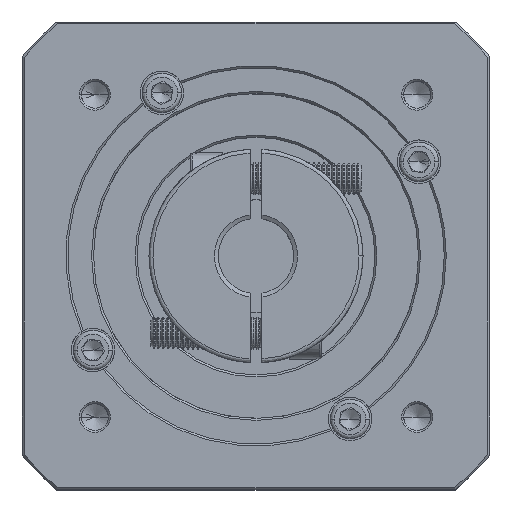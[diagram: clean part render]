
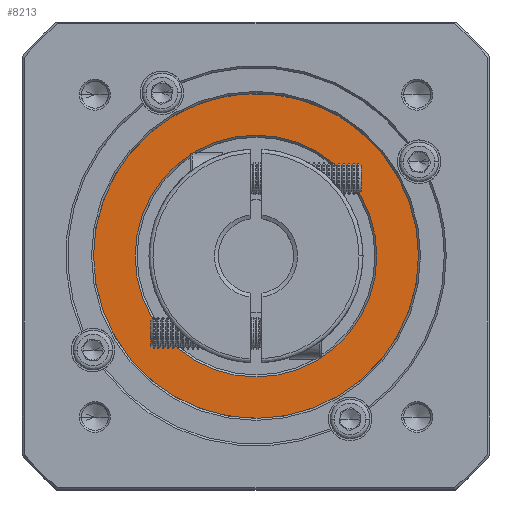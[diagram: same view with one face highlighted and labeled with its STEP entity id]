
A CAD part, top view. The second image highlights one B-rep face of the part: STEP entity #8213.
In plain terms, the highlighted planar face has unit normal (0, 0, 1).
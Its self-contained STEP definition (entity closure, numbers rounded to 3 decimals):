
#1322 = ORIENTED_EDGE ( 'NONE', *, *, #55532, .T. ) ;
#1853 = CARTESIAN_POINT ( 'NONE',  ( 101.736, 45.743, -26.852 ) ) ;
#2900 = ORIENTED_EDGE ( 'NONE', *, *, #115308, .T. ) ;
#5101 = FACE_OUTER_BOUND ( 'NONE', #51717, .T. ) ;
#7073 = CARTESIAN_POINT ( 'NONE',  ( 71.236, 45.743, -26.852 ) ) ;
#8213 = ADVANCED_FACE ( 'NONE', ( #5101, #79357 ), #133716, .T. ) ;
#10390 = CIRCLE ( 'NONE', #52571, 41. ) ;
#13324 = ORIENTED_EDGE ( 'NONE', *, *, #20689, .T. ) ;
#14761 = VERTEX_POINT ( 'NONE', #31502 ) ;
#19438 = EDGE_CURVE ( 'NONE', #67109, #93457, #32539, .T. ) ;
#20689 = EDGE_CURVE ( 'NONE', #102004, #67109, #10390, .T. ) ;
#21291 = CARTESIAN_POINT ( 'NONE',  ( 71.236, 45.743, -26.852 ) ) ;
#24596 = CARTESIAN_POINT ( 'NONE',  ( 32.377, 58.821, -26.852 ) ) ;
#26552 = CARTESIAN_POINT ( 'NONE',  ( 71.236, 45.743, -26.852 ) ) ;
#30578 = AXIS2_PLACEMENT_3D ( 'NONE', #59269, #60180, #70165 ) ;
#31502 = CARTESIAN_POINT ( 'NONE',  ( 30.236, 45.743, -26.852 ) ) ;
#32539 = CIRCLE ( 'NONE', #59554, 41. ) ;
#33550 = CIRCLE ( 'NONE', #138095, 41. ) ;
#37788 = DIRECTION ( 'NONE',  ( 0., 0., 1. ) ) ;
#38087 = ORIENTED_EDGE ( 'NONE', *, *, #19438, .T. ) ;
#38741 = CARTESIAN_POINT ( 'NONE',  ( 40.736, 45.743, -26.852 ) ) ;
#39907 = DIRECTION ( 'NONE',  ( 0., 0., 1. ) ) ;
#40820 = EDGE_CURVE ( 'NONE', #93457, #62718, #109251, .T. ) ;
#49202 = CARTESIAN_POINT ( 'NONE',  ( 110.094, 32.666, -26.852 ) ) ;
#51717 = EDGE_LOOP ( 'NONE', ( #13324, #38087, #59826, #2900, #59498, #1322 ) ) ;
#52571 = AXIS2_PLACEMENT_3D ( 'NONE', #111144, #133562, #121639 ) ;
#53882 = EDGE_LOOP ( 'NONE', ( #103107, #62902 ) ) ;
#53971 = CARTESIAN_POINT ( 'NONE',  ( 71.236, 45.743, -26.852 ) ) ;
#55532 = EDGE_CURVE ( 'NONE', #14761, #102004, #70762, .T. ) ;
#56183 = EDGE_CURVE ( 'NONE', #58747, #105773, #109773, .T. ) ;
#57156 = DIRECTION ( 'NONE',  ( 0., 0., -1. ) ) ;
#58376 = VERTEX_POINT ( 'NONE', #24596 ) ;
#58747 = VERTEX_POINT ( 'NONE', #1853 ) ;
#59269 = CARTESIAN_POINT ( 'NONE',  ( 71.236, 45.743, -26.852 ) ) ;
#59498 = ORIENTED_EDGE ( 'NONE', *, *, #131246, .T. ) ;
#59554 = AXIS2_PLACEMENT_3D ( 'NONE', #81270, #37788, #123606 ) ;
#59826 = ORIENTED_EDGE ( 'NONE', *, *, #40820, .T. ) ;
#60180 = DIRECTION ( 'NONE',  ( 0., 0., -1. ) ) ;
#62718 = VERTEX_POINT ( 'NONE', #65409 ) ;
#62902 = ORIENTED_EDGE ( 'NONE', *, *, #95098, .T. ) ;
#64154 = DIRECTION ( 'NONE',  ( 0., 0., 1. ) ) ;
#64887 = DIRECTION ( 'NONE',  ( 1., 0., 0. ) ) ;
#65236 = DIRECTION ( 'NONE',  ( 1., 0., 0. ) ) ;
#65409 = CARTESIAN_POINT ( 'NONE',  ( 39.471, 71.666, -26.852 ) ) ;
#66297 = DIRECTION ( 'NONE',  ( 0., 0., 1. ) ) ;
#67109 = VERTEX_POINT ( 'NONE', #49202 ) ;
#70165 = DIRECTION ( 'NONE',  ( 1., 0., 0. ) ) ;
#70762 = CIRCLE ( 'NONE', #89973, 41. ) ;
#73139 = AXIS2_PLACEMENT_3D ( 'NONE', #21291, #64154, #127832 ) ;
#79357 = FACE_BOUND ( 'NONE', #53882, .T. ) ;
#80340 = CIRCLE ( 'NONE', #30578, 30.5 ) ;
#81270 = CARTESIAN_POINT ( 'NONE',  ( 71.236, 45.743, -26.852 ) ) ;
#82508 = DIRECTION ( 'NONE',  ( 1., 0., 0. ) ) ;
#89441 = DIRECTION ( 'NONE',  ( 0., 0., 1. ) ) ;
#89973 = AXIS2_PLACEMENT_3D ( 'NONE', #119480, #66297, #64887 ) ;
#90833 = DIRECTION ( 'NONE',  ( 1., 0., 0. ) ) ;
#93457 = VERTEX_POINT ( 'NONE', #110073 ) ;
#95098 = EDGE_CURVE ( 'NONE', #105773, #58747, #80340, .T. ) ;
#96975 = AXIS2_PLACEMENT_3D ( 'NONE', #7073, #39907, #82508 ) ;
#102004 = VERTEX_POINT ( 'NONE', #115215 ) ;
#103107 = ORIENTED_EDGE ( 'NONE', *, *, #56183, .T. ) ;
#105773 = VERTEX_POINT ( 'NONE', #38741 ) ;
#109251 = CIRCLE ( 'NONE', #96975, 41. ) ;
#109773 = CIRCLE ( 'NONE', #131058, 30.5 ) ;
#110073 = CARTESIAN_POINT ( 'NONE',  ( 112.236, 45.743, -26.852 ) ) ;
#111144 = CARTESIAN_POINT ( 'NONE',  ( 71.236, 45.743, -26.852 ) ) ;
#111698 = DIRECTION ( 'NONE',  ( 1., 0., 0. ) ) ;
#115215 = CARTESIAN_POINT ( 'NONE',  ( 103.001, 19.821, -26.852 ) ) ;
#115308 = EDGE_CURVE ( 'NONE', #62718, #58376, #127379, .T. ) ;
#118407 = DIRECTION ( 'NONE',  ( 0., 0., 1. ) ) ;
#119480 = CARTESIAN_POINT ( 'NONE',  ( 71.236, 45.743, -26.852 ) ) ;
#121639 = DIRECTION ( 'NONE',  ( 1., 0., 0. ) ) ;
#123606 = DIRECTION ( 'NONE',  ( 1., 0., 0. ) ) ;
#123831 = AXIS2_PLACEMENT_3D ( 'NONE', #134200, #89441, #90833 ) ;
#127379 = CIRCLE ( 'NONE', #73139, 41. ) ;
#127832 = DIRECTION ( 'NONE',  ( 1., 0., 0. ) ) ;
#131058 = AXIS2_PLACEMENT_3D ( 'NONE', #26552, #57156, #111698 ) ;
#131246 = EDGE_CURVE ( 'NONE', #58376, #14761, #33550, .T. ) ;
#133562 = DIRECTION ( 'NONE',  ( 0., 0., 1. ) ) ;
#133716 = PLANE ( 'NONE',  #123831 ) ;
#134200 = CARTESIAN_POINT ( 'NONE',  ( 71.236, 45.743, -26.852 ) ) ;
#138095 = AXIS2_PLACEMENT_3D ( 'NONE', #53971, #118407, #65236 ) ;
